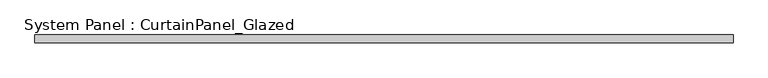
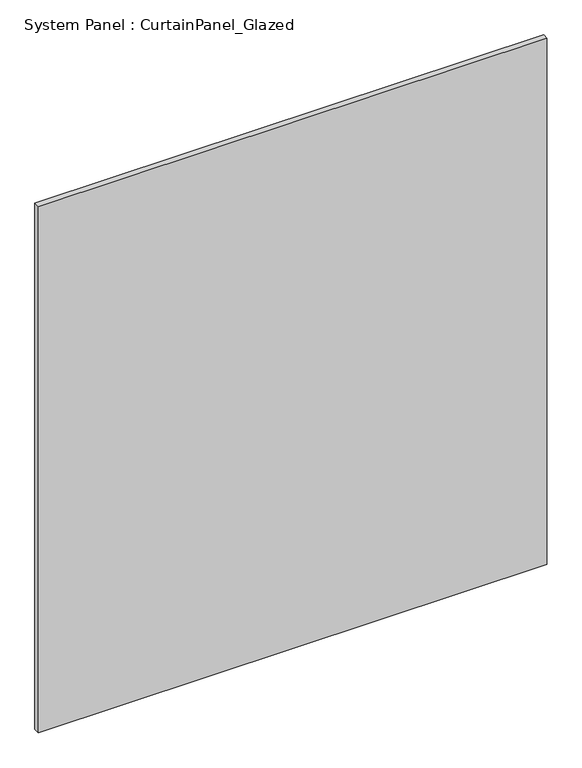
"""IFC4 building model written with IfcOpenShell, lengths in millimetres: plate geometry, System Panel : CurtainPanel_Glazed."""

from ifc_helpers import new_model, si_unit, origin, origin_with_axes, place, context, project, spatial, polyline, outline, extrude, source, transform, mapped, element, save


def system_panel_curtainpanel_glazed_8c8521e7(model_context):
    return source(origin(), model_context, "Body", "SweptSolid", [
        extrude(outline(polyline([(1113.6000001, -12.5), (-1113.6000001, -12.5), (-1113.6000001, 12.5), (1113.6000001, 12.5), (1113.6000001, -12.5)])), origin_with_axes(), (0.0, 0.0, 1.0), 2436.7),
    ])


if __name__ == "__main__":
    model = new_model("IFC4")
    model_context = context("Model", 3, world=origin())
    ifc_project = project(units=[si_unit("LENGTHUNIT", "METRE", prefix="MILLI")], contexts=[model_context])
    site = spatial("IfcSite", under=ifc_project)
    building = spatial("IfcBuilding", under=site)
    placement = place(None, origin())
    system_panel_curtainpanel_glazed_shape = system_panel_curtainpanel_glazed_8c8521e7(model_context)
    element("IfcPlate", 1, ObjectType="System Panel : CurtainPanel_Glazed", at=placement, inside=building, context=model_context, shape_type="MappedRepresentation", body=[
        mapped(system_panel_curtainpanel_glazed_shape, transform((0.0, 0.0, 0.0), x_axis=(1.0, 0.0, 0.0), y_axis=(0.0, 1.0, 0.0), z_axis=(0.0, 0.0, 1.0))),
    ])
    save(model, "model.ifc")
